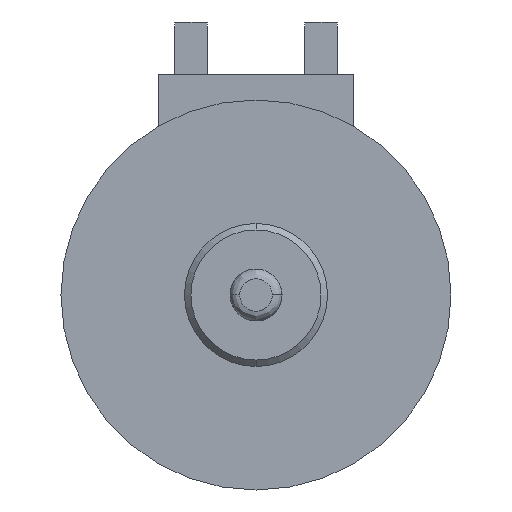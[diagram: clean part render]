
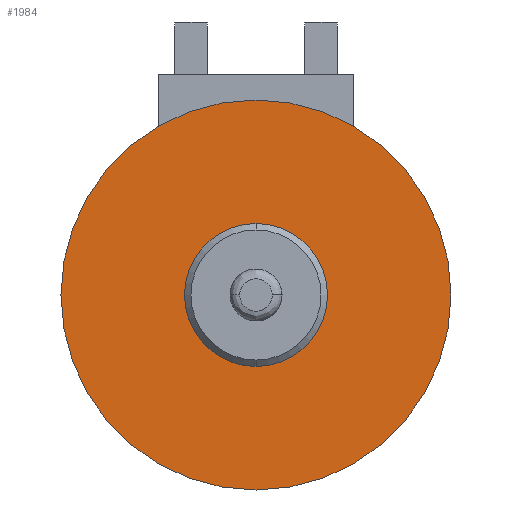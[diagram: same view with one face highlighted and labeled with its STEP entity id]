
A CAD part, front view. The second image highlights one B-rep face of the part: STEP entity #1984.
In plain terms, the highlighted planar face has unit normal (0, -1, 0).
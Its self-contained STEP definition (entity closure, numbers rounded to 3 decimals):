
#47 = AXIS2_PLACEMENT_3D ( 'NONE', #501, #2441, #412 ) ;
#58 = FACE_OUTER_BOUND ( 'NONE', #2319, .T. ) ;
#67 = AXIS2_PLACEMENT_3D ( 'NONE', #644, #2415, #1240 ) ;
#72 = CIRCLE ( 'NONE', #47, 1.1 ) ;
#88 = DIRECTION ( 'NONE',  ( 0., 0., 1. ) ) ;
#203 = EDGE_LOOP ( 'NONE', ( #1239, #2533 ) ) ;
#205 = AXIS2_PLACEMENT_3D ( 'NONE', #858, #2238, #1068 ) ;
#283 = CIRCLE ( 'NONE', #1761, 3. ) ;
#295 = CARTESIAN_POINT ( 'NONE',  ( 0., -5.95, 3. ) ) ;
#320 = EDGE_CURVE ( 'NONE', #2142, #1482, #72, .T. ) ;
#403 = EDGE_CURVE ( 'NONE', #1686, #1131, #2475, .T. ) ;
#412 = DIRECTION ( 'NONE',  ( 0., 0., 1. ) ) ;
#451 = CARTESIAN_POINT ( 'NONE',  ( 0., -5.95, -1.1 ) ) ;
#466 = DIRECTION ( 'NONE',  ( 0., 0., 1. ) ) ;
#501 = CARTESIAN_POINT ( 'NONE',  ( 0., -5.95, 0. ) ) ;
#601 = ORIENTED_EDGE ( 'NONE', *, *, #1133, .T. ) ;
#610 = FACE_BOUND ( 'NONE', #203, .T. ) ;
#644 = CARTESIAN_POINT ( 'NONE',  ( -3.036, -5.95, -3.036 ) ) ;
#753 = DIRECTION ( 'NONE',  ( 0., -1., 0. ) ) ;
#858 = CARTESIAN_POINT ( 'NONE',  ( 0., -5.95, 0. ) ) ;
#1048 = PLANE ( 'NONE',  #67 ) ;
#1068 = DIRECTION ( 'NONE',  ( 0., 0., 1. ) ) ;
#1131 = VERTEX_POINT ( 'NONE', #295 ) ;
#1133 = EDGE_CURVE ( 'NONE', #1131, #1686, #283, .T. ) ;
#1239 = ORIENTED_EDGE ( 'NONE', *, *, #320, .T. ) ;
#1240 = DIRECTION ( 'NONE',  ( 1., 0., 0. ) ) ;
#1266 = AXIS2_PLACEMENT_3D ( 'NONE', #2297, #753, #466 ) ;
#1298 = DIRECTION ( 'NONE',  ( 0., -1., 0. ) ) ;
#1459 = CARTESIAN_POINT ( 'NONE',  ( 0., -5.95, 1.1 ) ) ;
#1482 = VERTEX_POINT ( 'NONE', #451 ) ;
#1483 = EDGE_CURVE ( 'NONE', #1482, #2142, #2185, .T. ) ;
#1540 = ORIENTED_EDGE ( 'NONE', *, *, #403, .T. ) ;
#1686 = VERTEX_POINT ( 'NONE', #2311 ) ;
#1761 = AXIS2_PLACEMENT_3D ( 'NONE', #2476, #1298, #88 ) ;
#1984 = ADVANCED_FACE ( 'NONE', ( #610, #58 ), #1048, .T. ) ;
#2142 = VERTEX_POINT ( 'NONE', #1459 ) ;
#2185 = CIRCLE ( 'NONE', #205, 1.1 ) ;
#2238 = DIRECTION ( 'NONE',  ( 0., 1., 0. ) ) ;
#2297 = CARTESIAN_POINT ( 'NONE',  ( 0., -5.95, 0. ) ) ;
#2311 = CARTESIAN_POINT ( 'NONE',  ( 0., -5.95, -3. ) ) ;
#2319 = EDGE_LOOP ( 'NONE', ( #601, #1540 ) ) ;
#2415 = DIRECTION ( 'NONE',  ( 0., -1., 0. ) ) ;
#2441 = DIRECTION ( 'NONE',  ( 0., 1., 0. ) ) ;
#2475 = CIRCLE ( 'NONE', #1266, 3. ) ;
#2476 = CARTESIAN_POINT ( 'NONE',  ( 0., -5.95, 0. ) ) ;
#2533 = ORIENTED_EDGE ( 'NONE', *, *, #1483, .T. ) ;
